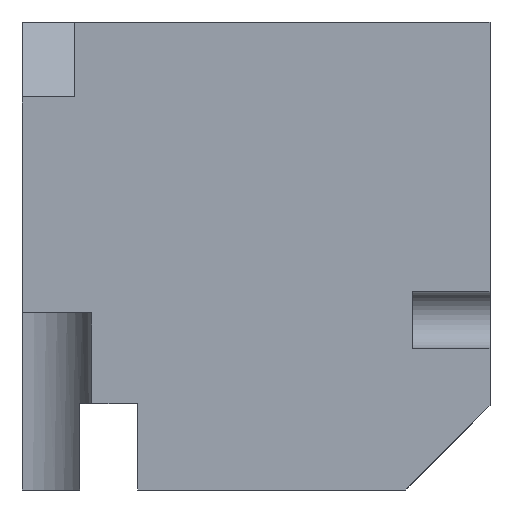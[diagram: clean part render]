
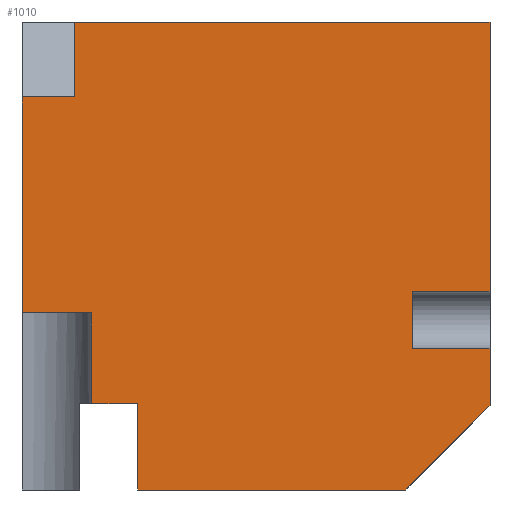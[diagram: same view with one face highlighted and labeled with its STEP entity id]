
A CAD part, front view. The second image highlights one B-rep face of the part: STEP entity #1010.
In plain terms, the highlighted planar face has unit normal (0, -1, 0).
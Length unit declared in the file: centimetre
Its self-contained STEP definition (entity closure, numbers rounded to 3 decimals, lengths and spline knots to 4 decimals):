
#2 = CARTESIAN_POINT ( 'NONE',  ( 834.1256, 0., 424.7706 ) ) ;
#11 = ORIENTED_EDGE ( 'NONE', *, *, #1080, .T. ) ;
#22 = VERTEX_POINT ( 'NONE', #901 ) ;
#23 = CARTESIAN_POINT ( 'NONE',  ( 1000., 0., 424.7706 ) ) ;
#42 = VERTEX_POINT ( 'NONE', #652 ) ;
#48 = CARTESIAN_POINT ( 'NONE',  ( 1000., 0., 301.7084 ) ) ;
#51 = DIRECTION ( 'NONE',  ( 0., 1., 0. ) ) ;
#60 = CARTESIAN_POINT ( 'NONE',  ( 0., 0., 1000. ) ) ;
#67 = DIRECTION ( 'NONE',  ( 0.707, 0., 0.707 ) ) ;
#80 = EDGE_CURVE ( 'NONE', #970, #42, #729, .T. ) ;
#83 = EDGE_CURVE ( 'NONE', #1215, #733, #922, .T. ) ;
#85 = CARTESIAN_POINT ( 'NONE',  ( 1000., 0., 1000. ) ) ;
#90 = LINE ( 'NONE', #190, #482 ) ;
#104 = VERTEX_POINT ( 'NONE', #48 ) ;
#113 = VECTOR ( 'NONE', #747, 100. ) ;
#116 = EDGE_CURVE ( 'NONE', #332, #1033, #1227, .T. ) ;
#132 = DIRECTION ( 'NONE',  ( 1., 0., 0. ) ) ;
#134 = ORIENTED_EDGE ( 'NONE', *, *, #561, .F. ) ;
#140 = DIRECTION ( 'NONE',  ( 1., 0., 0. ) ) ;
#148 = CARTESIAN_POINT ( 'NONE',  ( 0., 0., 378.4077 ) ) ;
#151 = VERTEX_POINT ( 'NONE', #1112 ) ;
#155 = CARTESIAN_POINT ( 'NONE',  ( 1000., 0., 180.048 ) ) ;
#172 = ORIENTED_EDGE ( 'NONE', *, *, #992, .T. ) ;
#190 = CARTESIAN_POINT ( 'NONE',  ( 834.1256, 0., 1000. ) ) ;
#206 = LINE ( 'NONE', #612, #731 ) ;
#215 = ORIENTED_EDGE ( 'NONE', *, *, #80, .T. ) ;
#225 = ORIENTED_EDGE ( 'NONE', *, *, #521, .F. ) ;
#246 = ORIENTED_EDGE ( 'NONE', *, *, #252, .F. ) ;
#252 = EDGE_CURVE ( 'NONE', #104, #42, #680, .T. ) ;
#295 = CARTESIAN_POINT ( 'NONE',  ( 0., 0., 839.7971 ) ) ;
#302 = ORIENTED_EDGE ( 'NONE', *, *, #116, .F. ) ;
#308 = LINE ( 'NONE', #592, #1051 ) ;
#323 = ORIENTED_EDGE ( 'NONE', *, *, #339, .T. ) ;
#325 = DIRECTION ( 'NONE',  ( 0., 0., -1. ) ) ;
#331 = CARTESIAN_POINT ( 'NONE',  ( 0., 0., 378.4077 ) ) ;
#332 = VERTEX_POINT ( 'NONE', #697 ) ;
#339 = EDGE_CURVE ( 'NONE', #692, #970, #505, .T. ) ;
#340 = CARTESIAN_POINT ( 'NONE',  ( 1000., 0., 1000. ) ) ;
#342 = CARTESIAN_POINT ( 'NONE',  ( 111.9091, 0., 839.7971 ) ) ;
#376 = CARTESIAN_POINT ( 'NONE',  ( 834.1256, 0., 424.7706 ) ) ;
#382 = VECTOR ( 'NONE', #844, 100. ) ;
#383 = VECTOR ( 'NONE', #325, 100. ) ;
#401 = DIRECTION ( 'NONE',  ( 1., 0., 0. ) ) ;
#408 = ORIENTED_EDGE ( 'NONE', *, *, #925, .T. ) ;
#416 = CARTESIAN_POINT ( 'NONE',  ( 0., 0., 0. ) ) ;
#424 = DIRECTION ( 'NONE',  ( 0., 0., -1. ) ) ;
#463 = VECTOR ( 'NONE', #553, 100. ) ;
#470 = CARTESIAN_POINT ( 'NONE',  ( 0., 0., 1000. ) ) ;
#472 = ORIENTED_EDGE ( 'NONE', *, *, #83, .T. ) ;
#482 = VECTOR ( 'NONE', #677, 100. ) ;
#505 = LINE ( 'NONE', #416, #538 ) ;
#521 = EDGE_CURVE ( 'NONE', #1142, #907, #838, .T. ) ;
#524 = PLANE ( 'NONE',  #966 ) ;
#538 = VECTOR ( 'NONE', #132, 100. ) ;
#553 = DIRECTION ( 'NONE',  ( 1., 0., 0. ) ) ;
#561 = EDGE_CURVE ( 'NONE', #1215, #22, #642, .T. ) ;
#592 = CARTESIAN_POINT ( 'NONE',  ( 834.1256, 0., 301.7084 ) ) ;
#594 = ORIENTED_EDGE ( 'NONE', *, *, #664, .F. ) ;
#612 = CARTESIAN_POINT ( 'NONE',  ( 148.945, 0., 378.4077 ) ) ;
#615 = EDGE_CURVE ( 'NONE', #22, #1142, #866, .T. ) ;
#623 = VERTEX_POINT ( 'NONE', #1046 ) ;
#642 = LINE ( 'NONE', #1129, #787 ) ;
#652 = CARTESIAN_POINT ( 'NONE',  ( 1000., 0., 180.048 ) ) ;
#664 = EDGE_CURVE ( 'NONE', #821, #724, #90, .T. ) ;
#668 = CARTESIAN_POINT ( 'NONE',  ( 246.8022, 0., 0. ) ) ;
#677 = DIRECTION ( 'NONE',  ( 0., 0., -1. ) ) ;
#679 = ORIENTED_EDGE ( 'NONE', *, *, #804, .T. ) ;
#680 = LINE ( 'NONE', #686, #682 ) ;
#682 = VECTOR ( 'NONE', #1070, 100. ) ;
#686 = CARTESIAN_POINT ( 'NONE',  ( 1000., 0., 1000. ) ) ;
#692 = VERTEX_POINT ( 'NONE', #668 ) ;
#697 = CARTESIAN_POINT ( 'NONE',  ( 148.945, 0., 378.4077 ) ) ;
#724 = VERTEX_POINT ( 'NONE', #1163 ) ;
#725 = FACE_OUTER_BOUND ( 'NONE', #994, .T. ) ;
#729 = LINE ( 'NONE', #155, #748 ) ;
#731 = VECTOR ( 'NONE', #424, 100. ) ;
#733 = VERTEX_POINT ( 'NONE', #295 ) ;
#735 = DIRECTION ( 'NONE',  ( 0., 0., 1. ) ) ;
#745 = LINE ( 'NONE', #1209, #834 ) ;
#746 = DIRECTION ( 'NONE',  ( 0., 0., -1. ) ) ;
#747 = DIRECTION ( 'NONE',  ( -1., 0., 0. ) ) ;
#748 = VECTOR ( 'NONE', #67, 100. ) ;
#787 = VECTOR ( 'NONE', #735, 100. ) ;
#804 = EDGE_CURVE ( 'NONE', #332, #151, #206, .T. ) ;
#807 = LINE ( 'NONE', #1188, #383 ) ;
#821 = VERTEX_POINT ( 'NONE', #2 ) ;
#834 = VECTOR ( 'NONE', #140, 100. ) ;
#838 = LINE ( 'NONE', #340, #1231 ) ;
#844 = DIRECTION ( 'NONE',  ( -1., 0., 0. ) ) ;
#865 = DIRECTION ( 'NONE',  ( 1., 0., 0. ) ) ;
#866 = LINE ( 'NONE', #470, #463 ) ;
#892 = EDGE_CURVE ( 'NONE', #724, #104, #308, .T. ) ;
#897 = ORIENTED_EDGE ( 'NONE', *, *, #615, .F. ) ;
#901 = CARTESIAN_POINT ( 'NONE',  ( 111.9091, 0., 1000. ) ) ;
#907 = VERTEX_POINT ( 'NONE', #23 ) ;
#915 = DIRECTION ( 'NONE',  ( 0., 0., 1. ) ) ;
#922 = LINE ( 'NONE', #1042, #382 ) ;
#925 = EDGE_CURVE ( 'NONE', #733, #1033, #807, .T. ) ;
#948 = ORIENTED_EDGE ( 'NONE', *, *, #892, .F. ) ;
#951 = DIRECTION ( 'NONE',  ( 0., 0., -1. ) ) ;
#966 = AXIS2_PLACEMENT_3D ( 'NONE', #60, #51, #915 ) ;
#970 = VERTEX_POINT ( 'NONE', #1011 ) ;
#978 = ORIENTED_EDGE ( 'NONE', *, *, #1111, .T. ) ;
#979 = CARTESIAN_POINT ( 'NONE',  ( 246.8022, 0., 0. ) ) ;
#992 = EDGE_CURVE ( 'NONE', #151, #623, #745, .T. ) ;
#994 = EDGE_LOOP ( 'NONE', ( #134, #472, #408, #302, #679, #172, #11, #323, #215, #246, #948, #594, #978, #225, #897 ) ) ;
#1010 = ADVANCED_FACE ( 'NONE', ( #725 ), #524, .F. ) ;
#1011 = CARTESIAN_POINT ( 'NONE',  ( 819.952, 0., 0. ) ) ;
#1033 = VERTEX_POINT ( 'NONE', #331 ) ;
#1042 = CARTESIAN_POINT ( 'NONE',  ( 111.9091, 0., 839.7971 ) ) ;
#1046 = CARTESIAN_POINT ( 'NONE',  ( 246.8022, 0., 184.4714 ) ) ;
#1051 = VECTOR ( 'NONE', #401, 100. ) ;
#1070 = DIRECTION ( 'NONE',  ( 0., 0., -1. ) ) ;
#1080 = EDGE_CURVE ( 'NONE', #623, #692, #1136, .T. ) ;
#1111 = EDGE_CURVE ( 'NONE', #821, #907, #1242, .T. ) ;
#1112 = CARTESIAN_POINT ( 'NONE',  ( 148.945, 0., 184.4714 ) ) ;
#1129 = CARTESIAN_POINT ( 'NONE',  ( 111.9091, 0., 839.7971 ) ) ;
#1136 = LINE ( 'NONE', #979, #1213 ) ;
#1142 = VERTEX_POINT ( 'NONE', #85 ) ;
#1163 = CARTESIAN_POINT ( 'NONE',  ( 834.1256, 0., 301.7084 ) ) ;
#1188 = CARTESIAN_POINT ( 'NONE',  ( 0., 0., 1000. ) ) ;
#1192 = VECTOR ( 'NONE', #865, 100. ) ;
#1209 = CARTESIAN_POINT ( 'NONE',  ( 123.2483, 0., 184.4714 ) ) ;
#1213 = VECTOR ( 'NONE', #951, 100. ) ;
#1215 = VERTEX_POINT ( 'NONE', #342 ) ;
#1227 = LINE ( 'NONE', #148, #113 ) ;
#1231 = VECTOR ( 'NONE', #746, 100. ) ;
#1242 = LINE ( 'NONE', #376, #1192 ) ;
